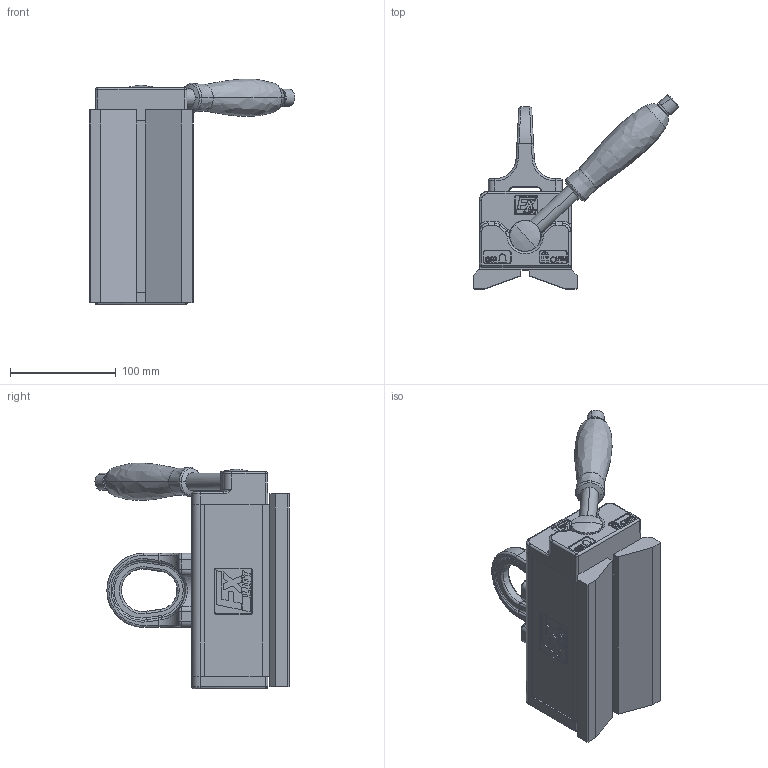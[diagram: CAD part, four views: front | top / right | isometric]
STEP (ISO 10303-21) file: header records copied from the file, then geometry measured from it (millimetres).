
FILE_DESCRIPTION(('STEP AP214'),'1');
FILE_NAME('1101_0221.stp','2017-06-12T09:30:26',('TraceParts'),('TraceParts S.A.'),'Spatial InterOp 3D',' ',' ');
FILE_SCHEMA(('automotive_design'));
Length unit declared in the file: millimetre
Products named in the file (1): 1101_0221
Bounding box: 193.9 x 183.26 x 213.05 mm (x, y, z)
Surface area: 138968.8 mm2 (no closed solid volume)
Topology: 0 solids, 1280 shells, 1280 faces, 6322 edges, 6190 vertices
Faces by surface type: plane 487, bspline 438, cone 174, cylinder 163, torus 12, sphere 6
Entity records: 109082 total; most frequent: CARTESIAN_POINT 66733, DIRECTION 7378, ORIENTED_EDGE 6192, EDGE_CURVE 6192, VERTEX_POINT 6192, LINE 3300, VECTOR 3300, AXIS2_PLACEMENT_3D 2039
